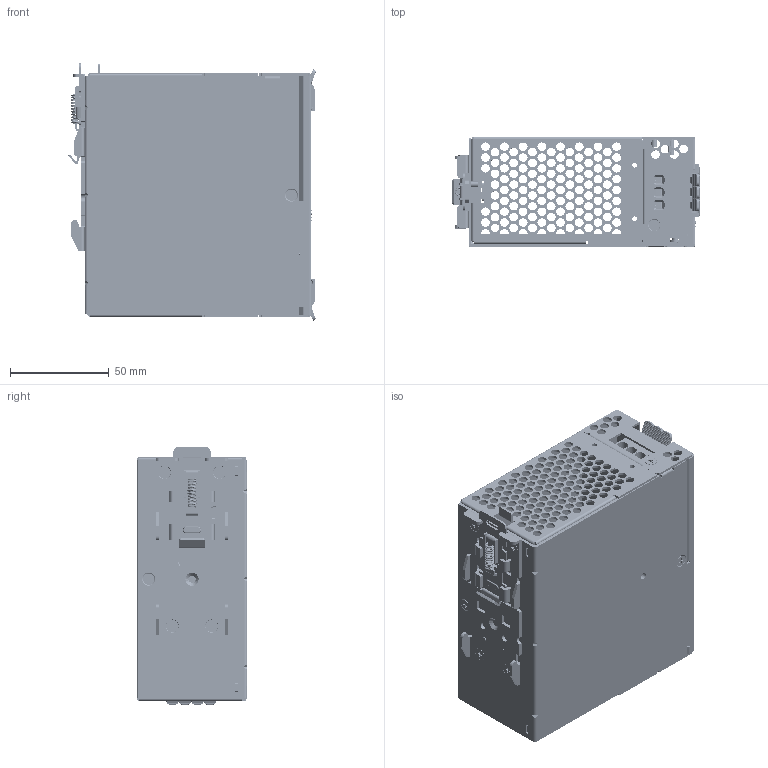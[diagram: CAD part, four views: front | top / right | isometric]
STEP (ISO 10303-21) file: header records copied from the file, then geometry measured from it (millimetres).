
FILE_DESCRIPTION((''),'2;1');
FILE_NAME('DRF-XXV480W1GTA_20231120_ASM','2023-11-20T15:10:18',('JOSH.LEE'),(''),'CREO PARAMETRIC BY PTC INC, 2020454','CREO PARAMETRIC BY PTC INC, 2020454','');
FILE_SCHEMA(('CONFIG_CONTROL_DESIGN','GEOMETRIC_VALIDATION_PROPERTIES_MIM'));
Products named in the file (38): 480W-CHASSIS-SHEETMETAL_13; 480W-STANDOFF_1; 480W-COVER-AL_20; 346654410101_1; 346008810000_1; 346202620000_1; BRACKET_3486195900_ASM_1_ASM; SCREW-FLAT-6-32_1; SCREW-FLAT-L5_1; SCREW-FLAT-L9_1; 480W-CASE-ASM_ASM_13_ASM; 480W-PWB-MAIN_1; 480W-SMALL-PWB_1; 480W-VR131_1; 480W-LED_1; 480W_NM02100A000G_1; 480W-EE-PARTS-ASM_ASM_2_ASM; MSBR-16_1_1; MSBR-15_1_1; MSBR-14_1_1; MSBR-13_1_1; MSBR-12_1_1; MSBR-11_1_1; MSBR-10_1_1; MSBR-9_1_1; MSBR-8_1_1; MSBR-7_1_1; MSBR-6_1_1; MSBR-5_1_1; MSBR-3_1_1; MSBR-2_1_1; MSBR-1_1_1; MSBR-4_1_1; N6_4P_ASM_ASM_1_ASM_1_ASM; N6_3P_ASM_ASM_1_ASM_1_ASM; 480W-PWB-ASM_ASM_1_ASM; 480W-ASM_ASM_6_ASM; DRF-XXV480W1GTA_20231120_ASM
Assembly tree (66 placements, depth 5):
  DRF-XXV480W1GTA_20231120_ASM
    480W-ASM_ASM_6_ASM
      480W-CASE-ASM_ASM_13_ASM
        480W-CHASSIS-SHEETMETAL_13
        480W-STANDOFF_1
        480W-COVER-AL_20
        BRACKET_3486195900_ASM_1_ASM
          346654410101_1
          346008810000_1
          346202620000_1
        SCREW-FLAT-6-32_1  x4
        SCREW-FLAT-L5_1  x6
        SCREW-FLAT-L9_1
      480W-PWB-ASM_ASM_1_ASM
        480W-PWB-MAIN_1
        480W-SMALL-PWB_1
        480W-EE-PARTS-ASM_ASM_2_ASM
          480W-VR131_1
          480W-LED_1
          480W_NM02100A000G_1
        N6_4P_ASM_ASM_1_ASM_1_ASM
          MSBR-16_1_1
          MSBR-15_1_1  x2
          MSBR-14_1_1
          MSBR-13_1_1
          MSBR-12_1_1  x2
          MSBR-11_1_1
          MSBR-10_1_1
          MSBR-9_1_1
          MSBR-8_1_1  x2
          MSBR-7_1_1
          MSBR-6_1_1  x2
          MSBR-5_1_1
          MSBR-3_1_1
          MSBR-2_1_1  x2
          MSBR-1_1_1
          MSBR-4_1_1
        N6_3P_ASM_ASM_1_ASM_1_ASM
          MSBR-16_1_1
          MSBR-15_1_1
          MSBR-14_1_1
          MSBR-13_1_1
          MSBR-12_1_1
          MSBR-11_1_1
          MSBR-10_1_1
          MSBR-9_1_1
          MSBR-8_1_1
          MSBR-7_1_1
          MSBR-6_1_1
          MSBR-5_1_1
          MSBR-4_1_1
          MSBR-3_1_1
          MSBR-2_1_1
          MSBR-1_1_1
Bounding box: 125.59 x 56 x 130.8 mm (x, y, z)
Volume: 113088.8 mm3; surface area: 183708.2 mm2
Topology: 59 solids, 66 shells, 10730 faces, 29285 edges, 18869 vertices
Faces by surface type: plane 5233, cylinder 3831, cone 690, torus 477, bspline 437, sphere 48, extrusion 14
Entity records: 238509 total; most frequent: CARTESIAN_POINT 63188, DIRECTION 33273, ORIENTED_EDGE 32974, EDGE_CURVE 16487, AXIS2_PLACEMENT_3D 11633, VERTEX_POINT 10648, VECTOR 10007, LINE 9998
